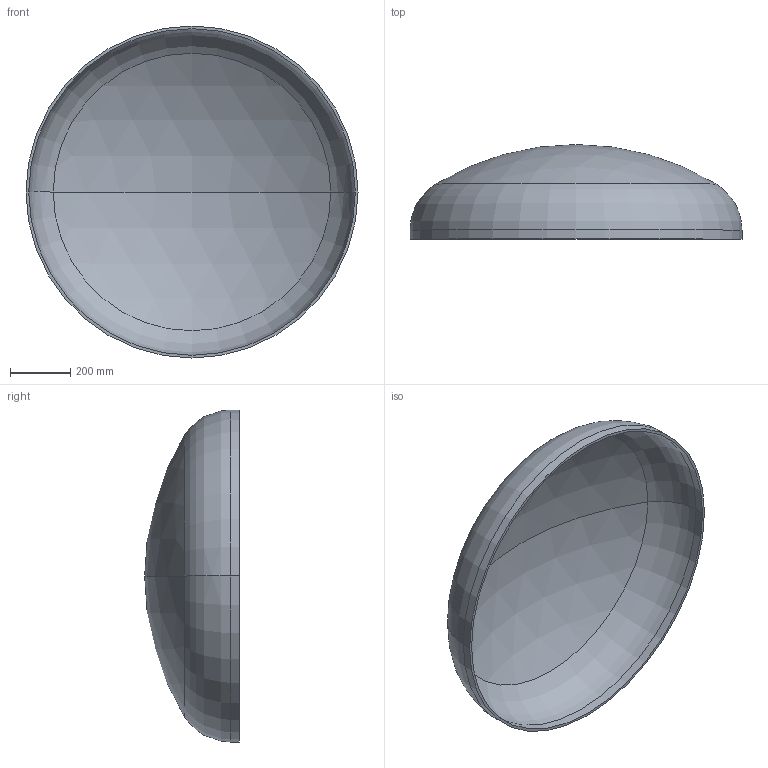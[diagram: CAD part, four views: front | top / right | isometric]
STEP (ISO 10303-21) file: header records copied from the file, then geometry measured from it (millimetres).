
FILE_DESCRIPTION (( 'STEP AP203' ), '1' );
FILE_NAME ('DIN 28013 Korbbogenform_-_Boden DIN 28013 - 1100 x 30 - I - s=9.step', '2016-07-01T09:00:41', ( '' ), ( '' ), 'SwSTEP 2.0', 'SolidWorks 2013', '' );
FILE_SCHEMA (( 'CONFIG_CONTROL_DESIGN' ));
Length unit declared in the file: millimetre
Products named in the file (1): DIN 28013 Korbbogenform_-_Boden DIN 28013 - 1100 x 30 - I - s=9
Bounding box: 1100 x 313.64 x 1100 mm (x, y, z)
Volume: 12651890.7 mm3; surface area: 2842547.2 mm2
Topology: 1 solids, 1 shells, 13 faces, 24 edges, 14 vertices
Faces by surface type: torus 4, cylinder 4, sphere 4, plane 1
Entity records: 407 total; most frequent: DIRECTION 72, CARTESIAN_POINT 52, ORIENTED_EDGE 48, AXIS2_PLACEMENT_3D 34, EDGE_CURVE 24, CIRCLE 20, VERTEX_POINT 14, EDGE_LOOP 14
